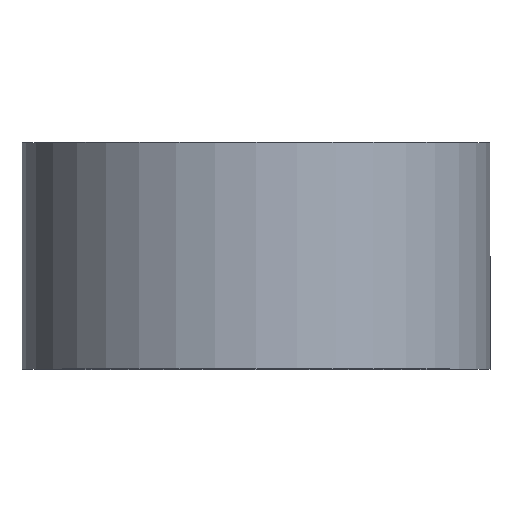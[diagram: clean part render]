
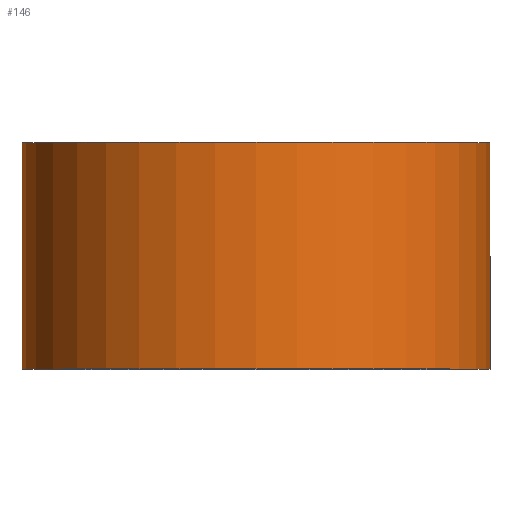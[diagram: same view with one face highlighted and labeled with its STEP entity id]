
A CAD part, top view. The second image highlights one B-rep face of the part: STEP entity #146.
In plain terms, the highlighted cylindrical face has radius 31 mm (diameter 62 mm), a partial arc.
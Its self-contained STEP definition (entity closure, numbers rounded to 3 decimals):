
#13 = ORIENTED_EDGE ( 'NONE', *, *, #276, .F. ) ;
#23 = CARTESIAN_POINT ( 'NONE',  ( 0., 0., 0. ) ) ;
#30 = AXIS2_PLACEMENT_3D ( 'NONE', #92, #258, #282 ) ;
#34 = AXIS2_PLACEMENT_3D ( 'NONE', #23, #85, #201 ) ;
#85 = DIRECTION ( 'NONE',  ( 0., 1., 0. ) ) ;
#86 = VERTEX_POINT ( 'NONE', #168 ) ;
#92 = CARTESIAN_POINT ( 'NONE',  ( 0., 0., 0. ) ) ;
#106 = CARTESIAN_POINT ( 'NONE',  ( -31., 0., 0. ) ) ;
#107 = LINE ( 'NONE', #106, #285 ) ;
#111 = DIRECTION ( 'NONE',  ( 0., 1., 0. ) ) ;
#117 = DIRECTION ( 'NONE',  ( 0., 1., 0. ) ) ;
#127 = CARTESIAN_POINT ( 'NONE',  ( -31., 30., 0. ) ) ;
#136 = CARTESIAN_POINT ( 'NONE',  ( 0., 30., 0. ) ) ;
#139 = CIRCLE ( 'NONE', #286, 31. ) ;
#146 = ADVANCED_FACE ( 'NONE', ( #214 ), #182, .T. ) ;
#159 = ORIENTED_EDGE ( 'NONE', *, *, #265, .T. ) ;
#162 = VECTOR ( 'NONE', #111, 1000. ) ;
#168 = CARTESIAN_POINT ( 'NONE',  ( -31., 0., 0. ) ) ;
#182 = CYLINDRICAL_SURFACE ( 'NONE', #34, 31. ) ;
#185 = CARTESIAN_POINT ( 'NONE',  ( 31., 0., 0. ) ) ;
#189 = LINE ( 'NONE', #225, #162 ) ;
#193 = EDGE_LOOP ( 'NONE', ( #220, #159, #13, #238 ) ) ;
#201 = DIRECTION ( 'NONE',  ( -1., 0., 0. ) ) ;
#214 = FACE_OUTER_BOUND ( 'NONE', #193, .T. ) ;
#218 = CIRCLE ( 'NONE', #30, 31. ) ;
#220 = ORIENTED_EDGE ( 'NONE', *, *, #266, .T. ) ;
#222 = EDGE_CURVE ( 'NONE', #86, #251, #107, .T. ) ;
#225 = CARTESIAN_POINT ( 'NONE',  ( 31., 0., 0. ) ) ;
#238 = ORIENTED_EDGE ( 'NONE', *, *, #222, .F. ) ;
#251 = VERTEX_POINT ( 'NONE', #127 ) ;
#252 = CARTESIAN_POINT ( 'NONE',  ( 31., 30., 0. ) ) ;
#255 = DIRECTION ( 'NONE',  ( -1., 0., 0. ) ) ;
#258 = DIRECTION ( 'NONE',  ( 0., 1., 0. ) ) ;
#265 = EDGE_CURVE ( 'NONE', #294, #268, #189, .T. ) ;
#266 = EDGE_CURVE ( 'NONE', #86, #294, #218, .T. ) ;
#268 = VERTEX_POINT ( 'NONE', #252 ) ;
#276 = EDGE_CURVE ( 'NONE', #251, #268, #139, .T. ) ;
#277 = DIRECTION ( 'NONE',  ( 0., 1., 0. ) ) ;
#282 = DIRECTION ( 'NONE',  ( -1., 0., 0. ) ) ;
#285 = VECTOR ( 'NONE', #277, 1000. ) ;
#286 = AXIS2_PLACEMENT_3D ( 'NONE', #136, #117, #255 ) ;
#294 = VERTEX_POINT ( 'NONE', #185 ) ;
